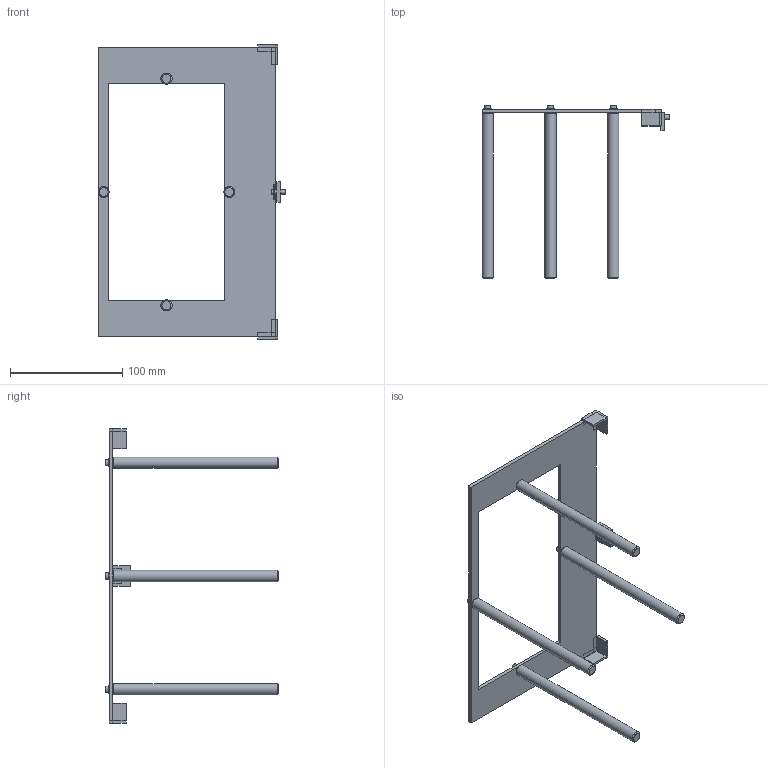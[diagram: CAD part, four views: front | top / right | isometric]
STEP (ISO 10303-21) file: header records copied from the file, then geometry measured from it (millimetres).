
FILE_DESCRIPTION(('Open CASCADE Model'),'2;1');
FILE_NAME('Open CASCADE Shape Model','2026-11-06T01:36:40',('Author'),( 'Open CASCADE'),'Open CASCADE STEP processor 7.8','Open CASCADE 7.8' ,'Unknown');
FILE_SCHEMA(('AUTOMOTIVE_DESIGN { 1 0 10303 214 1 1 1 1 }'));
Length unit declared in the file: millimetre
Products named in the file (19): Right_Guide_Module_R02; Right_independent_top_plate; Right_Guide_01; Right_M3_screw_envelope_00; Right_washer_envelope_00; Right_Guide_02; Right_M3_screw_envelope_01; Right_washer_envelope_01; Right_Guide_03; Right_M3_screw_envelope_02; Right_washer_envelope_02; Right_Guide_04; Right_M3_screw_envelope_03; Right_washer_envelope_03; Right_locator_-1; Right_locator_1; Right_clamp_pad_CONCEPT; Right_clamp_tab_CONCEPT; Right_clamp_screw_CONCEPT
Assembly tree (18 placements, depth 2):
  Right_Guide_Module_R02
    Right_independent_top_plate
    Right_Guide_01
    Right_M3_screw_envelope_00
    Right_washer_envelope_00
    Right_Guide_02
    Right_M3_screw_envelope_01
    Right_washer_envelope_01
    Right_Guide_03
    Right_M3_screw_envelope_02
    Right_washer_envelope_02
    Right_Guide_04
    Right_M3_screw_envelope_03
    Right_washer_envelope_03
    Right_locator_-1
    Right_locator_1
    Right_clamp_pad_CONCEPT
    Right_clamp_tab_CONCEPT
    Right_clamp_screw_CONCEPT
Bounding box: 167.5 x 154.6 x 262.5 mm (x, y, z)
Volume: 111867.4 mm3; surface area: 69802 mm2
Topology: 18 solids, 18 shells, 157 faces, 301 edges, 188 vertices
Faces by surface type: plane 114, cylinder 35, cone 8
Full cylindrical faces by diameter (mm): 2.5 x4, 3 x4, 3.2 x4, 4 x1, 5.5 x4, 7 x4, 10 x4
Entity records: 8237 total; most frequent: CARTESIAN_POINT 1339, DIRECTION 1261, LINE 683, VECTOR 683, ORIENTED_EDGE 602, PCURVE 602, DEFINITIONAL_REPRESENTATION 602, EDGE_CURVE 301
